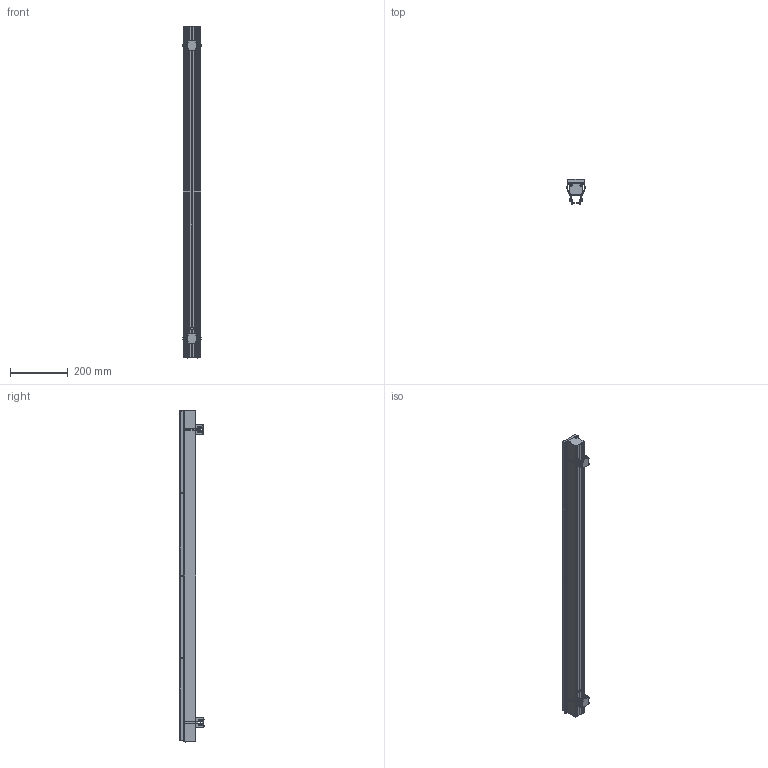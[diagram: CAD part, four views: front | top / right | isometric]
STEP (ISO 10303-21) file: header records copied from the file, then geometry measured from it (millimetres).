
FILE_DESCRIPTION (( 'STEP AP214' ), '1' );
FILE_NAME ('Pixel E 11.STEP', '2017-10-10T10:05:20', ( 'tecnica2' ), ( 'Microsoft' ), 'SwSTEP 2.0', 'SolidWorks 2016', '' );
FILE_SCHEMA (( 'AUTOMOTIVE_DESIGN' ));
Length unit declared in the file: millimetre
Products named in the file (9): Tapa-BIM_definitiva; Perfil DRIVER-BIM_X4 (L:1150mm); lente-BIM; Perfil LED-BIM_X4 (L:1150); Pixel E 11; Ensamblaje kit empotrable-BIM; muelle perfil-BIM; soporte muelle-BIM_flexado; TT 65 T 3X6
Assembly tree (17 placements, depth 3):
  Pixel E 11
    Perfil LED-BIM_X4 (L:1150)
    lente-BIM  x4
    Perfil DRIVER-BIM_X4 (L:1150mm)
    Tapa-BIM_definitiva  x2
    TT 65 T 3X6  x4
    Ensamblaje kit empotrable-BIM  x2
      soporte muelle-BIM_flexado
      muelle perfil-BIM
Bounding box: 65.27 x 85.12 x 1154 mm (x, y, z)
Volume: 2926118.1 mm3; surface area: 623427.1 mm2
Topology: 20 solids, 20 shells, 1058 faces, 2586 edges, 1540 vertices
Faces by surface type: cylinder 386, plane 340, bspline 216, cone 84, torus 16, sphere 16
Full cylindrical faces by diameter (mm): 1.3 x8
Entity records: 17116 total; most frequent: CARTESIAN_POINT 6642, ORIENTED_EDGE 1984, DIRECTION 1844, EDGE_CURVE 992, AXIS2_PLACEMENT_3D 643, VERTEX_POINT 618, VECTOR 558, LINE 558
